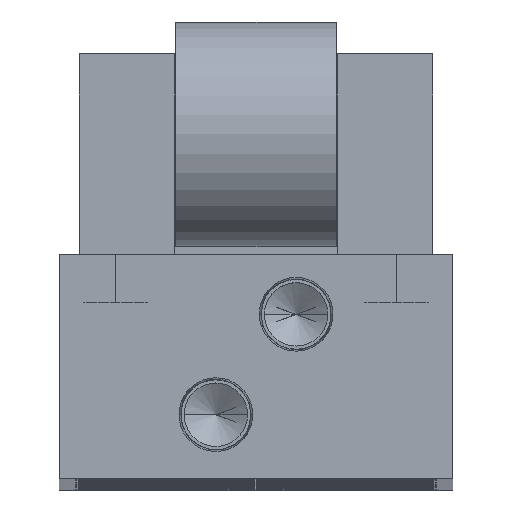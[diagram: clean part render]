
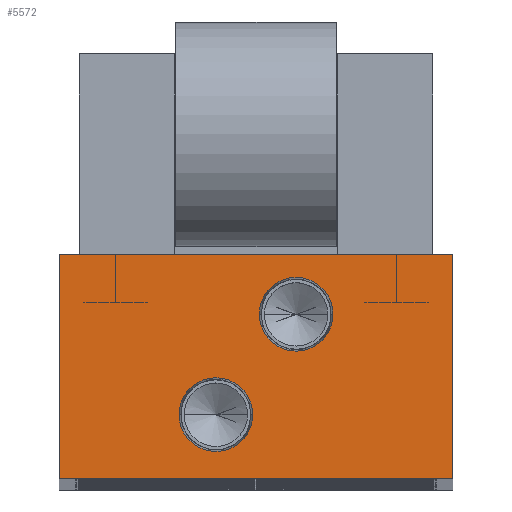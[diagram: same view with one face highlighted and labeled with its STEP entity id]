
A CAD part, top view. The second image highlights one B-rep face of the part: STEP entity #5572.
In plain terms, the highlighted planar face has unit normal (0, 0, 1).
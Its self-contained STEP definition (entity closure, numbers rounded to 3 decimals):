
#214 = CARTESIAN_POINT ( 'NONE',  ( -24.5, 0., 0. ) ) ;
#319 = AXIS2_PLACEMENT_3D ( 'NONE', #19658, #4698, #22137 ) ;
#1285 = CARTESIAN_POINT ( 'NONE',  ( 9.592, 20.5, 0. ) ) ;
#1385 = CIRCLE ( 'NONE', #18744, 4.592 ) ;
#1433 = DIRECTION ( 'NONE',  ( 1., 0., 0. ) ) ;
#1447 = LINE ( 'NONE', #29359, #11625 ) ;
#1681 = VERTEX_POINT ( 'NONE', #214 ) ;
#1947 = CARTESIAN_POINT ( 'NONE',  ( 24.5, 0., 0. ) ) ;
#2350 = VECTOR ( 'NONE', #6640, 1000. ) ;
#2440 = CARTESIAN_POINT ( 'NONE',  ( -24.5, 28., 0. ) ) ;
#2916 = CARTESIAN_POINT ( 'NONE',  ( 0., 0., 0. ) ) ;
#3464 = FACE_OUTER_BOUND ( 'NONE', #16219, .T. ) ;
#3910 = CARTESIAN_POINT ( 'NONE',  ( 24.5, 28., 0. ) ) ;
#4040 = ORIENTED_EDGE ( 'NONE', *, *, #17027, .F. ) ;
#4275 = CARTESIAN_POINT ( 'NONE',  ( -5., 8., 0. ) ) ;
#4698 = DIRECTION ( 'NONE',  ( 0., 0., 1. ) ) ;
#4911 = CARTESIAN_POINT ( 'NONE',  ( 24.5, 28., 0. ) ) ;
#5572 = ADVANCED_FACE ( 'NONE', ( #23353, #16761, #3464 ), #30301, .T. ) ;
#5642 = ORIENTED_EDGE ( 'NONE', *, *, #10303, .F. ) ;
#6640 = DIRECTION ( 'NONE',  ( 0., -1., 0. ) ) ;
#6701 = VERTEX_POINT ( 'NONE', #2440 ) ;
#6786 = DIRECTION ( 'NONE',  ( 1., 0., 0. ) ) ;
#7711 = ORIENTED_EDGE ( 'NONE', *, *, #10494, .F. ) ;
#8137 = LINE ( 'NONE', #4911, #20663 ) ;
#8870 = CARTESIAN_POINT ( 'NONE',  ( -0.408, 8., 0. ) ) ;
#9432 = CARTESIAN_POINT ( 'NONE',  ( 0.408, 20.5, 0. ) ) ;
#9494 = AXIS2_PLACEMENT_3D ( 'NONE', #4275, #21737, #6786 ) ;
#9660 = EDGE_CURVE ( 'NONE', #22578, #6701, #1447, .T. ) ;
#10303 = EDGE_CURVE ( 'NONE', #22016, #31032, #19395, .T. ) ;
#10377 = EDGE_LOOP ( 'NONE', ( #7711, #22392 ) ) ;
#10447 = DIRECTION ( 'NONE',  ( 1., 0., 0. ) ) ;
#10494 = EDGE_CURVE ( 'NONE', #12820, #30588, #1385, .T. ) ;
#11154 = CIRCLE ( 'NONE', #20298, 4.592 ) ;
#11511 = ORIENTED_EDGE ( 'NONE', *, *, #30139, .T. ) ;
#11625 = VECTOR ( 'NONE', #31859, 1000. ) ;
#11669 = CARTESIAN_POINT ( 'NONE',  ( -24.5, 28., 0. ) ) ;
#12330 = EDGE_CURVE ( 'NONE', #1681, #26155, #28584, .T. ) ;
#12820 = VERTEX_POINT ( 'NONE', #1285 ) ;
#13508 = CARTESIAN_POINT ( 'NONE',  ( -9.592, 8., 0. ) ) ;
#13989 = ORIENTED_EDGE ( 'NONE', *, *, #9660, .T. ) ;
#14579 = VECTOR ( 'NONE', #24137, 1000. ) ;
#14929 = CIRCLE ( 'NONE', #9494, 4.592 ) ;
#14952 = DIRECTION ( 'NONE',  ( 0., 0., 1. ) ) ;
#14961 = DIRECTION ( 'NONE',  ( 0., 1., 0. ) ) ;
#16219 = EDGE_LOOP ( 'NONE', ( #24476, #21698, #11511, #13989 ) ) ;
#16443 = DIRECTION ( 'NONE',  ( 0., 0., 1. ) ) ;
#16761 = FACE_BOUND ( 'NONE', #10377, .T. ) ;
#17027 = EDGE_CURVE ( 'NONE', #31032, #22016, #14929, .T. ) ;
#18744 = AXIS2_PLACEMENT_3D ( 'NONE', #29836, #14952, #32329 ) ;
#19395 = CIRCLE ( 'NONE', #319, 4.592 ) ;
#19658 = CARTESIAN_POINT ( 'NONE',  ( -5., 8., 0. ) ) ;
#20298 = AXIS2_PLACEMENT_3D ( 'NONE', #31326, #16443, #1433 ) ;
#20549 = EDGE_CURVE ( 'NONE', #30588, #12820, #11154, .T. ) ;
#20663 = VECTOR ( 'NONE', #14961, 1000. ) ;
#21698 = ORIENTED_EDGE ( 'NONE', *, *, #12330, .T. ) ;
#21737 = DIRECTION ( 'NONE',  ( 0., 0., 1. ) ) ;
#22016 = VERTEX_POINT ( 'NONE', #13508 ) ;
#22137 = DIRECTION ( 'NONE',  ( 1., 0., 0. ) ) ;
#22392 = ORIENTED_EDGE ( 'NONE', *, *, #20549, .F. ) ;
#22578 = VERTEX_POINT ( 'NONE', #3910 ) ;
#23353 = FACE_BOUND ( 'NONE', #31670, .T. ) ;
#24137 = DIRECTION ( 'NONE',  ( 1., 0., 0. ) ) ;
#24476 = ORIENTED_EDGE ( 'NONE', *, *, #24938, .T. ) ;
#24938 = EDGE_CURVE ( 'NONE', #6701, #1681, #28097, .T. ) ;
#25375 = DIRECTION ( 'NONE',  ( 0., 0., 1. ) ) ;
#26155 = VERTEX_POINT ( 'NONE', #1947 ) ;
#26624 = CARTESIAN_POINT ( 'NONE',  ( -24.5, 0., 0. ) ) ;
#28097 = LINE ( 'NONE', #11669, #2350 ) ;
#28584 = LINE ( 'NONE', #26624, #14579 ) ;
#28852 = AXIS2_PLACEMENT_3D ( 'NONE', #2916, #25375, #10447 ) ;
#29359 = CARTESIAN_POINT ( 'NONE',  ( -24.5, 28., 0. ) ) ;
#29836 = CARTESIAN_POINT ( 'NONE',  ( 5., 20.5, 0. ) ) ;
#30139 = EDGE_CURVE ( 'NONE', #26155, #22578, #8137, .T. ) ;
#30301 = PLANE ( 'NONE',  #28852 ) ;
#30588 = VERTEX_POINT ( 'NONE', #9432 ) ;
#31032 = VERTEX_POINT ( 'NONE', #8870 ) ;
#31326 = CARTESIAN_POINT ( 'NONE',  ( 5., 20.5, 0. ) ) ;
#31670 = EDGE_LOOP ( 'NONE', ( #4040, #5642 ) ) ;
#31859 = DIRECTION ( 'NONE',  ( -1., 0., 0. ) ) ;
#32329 = DIRECTION ( 'NONE',  ( 1., 0., 0. ) ) ;
